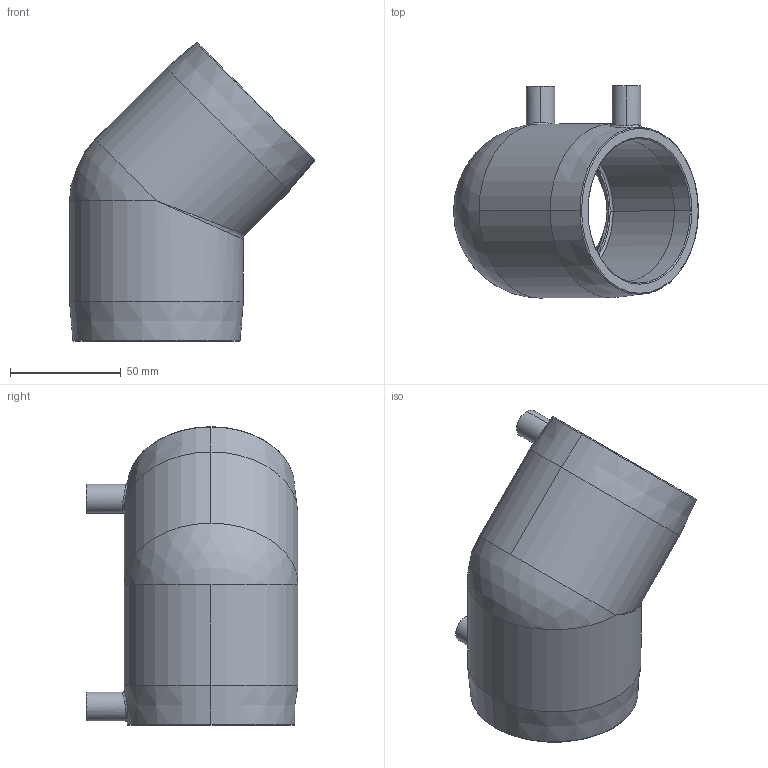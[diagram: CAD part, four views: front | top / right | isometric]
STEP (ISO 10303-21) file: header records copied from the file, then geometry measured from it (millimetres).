
FILE_DESCRIPTION (( 'STEP AP214' ), '1' );
FILE_NAME ('EBKHA63X45.STEP', '2018-09-20T12:37:32', ( '' ), ( '' ), 'SwSTEP 2.0', 'SolidWorks 2017', '' );
FILE_SCHEMA (( 'AUTOMOTIVE_DESIGN' ));
Length unit declared in the file: millimetre
Products named in the file (1): EBKHA63X45
Bounding box: 110.58 x 95.65 x 134.78 mm (x, y, z)
Volume: 211360.7 mm3; surface area: 61701.4 mm2
Topology: 1 solids, 1 shells, 96 faces, 209 edges, 121 vertices
Faces by surface type: cylinder 29, cone 26, torus 19, plane 16, bspline 5, sphere 1
Entity records: 3801 total; most frequent: CARTESIAN_POINT 1576, DIRECTION 477, ORIENTED_EDGE 410, AXIS2_PLACEMENT_3D 211, EDGE_CURVE 205, VERTEX_POINT 121, CIRCLE 119, EDGE_LOOP 108
